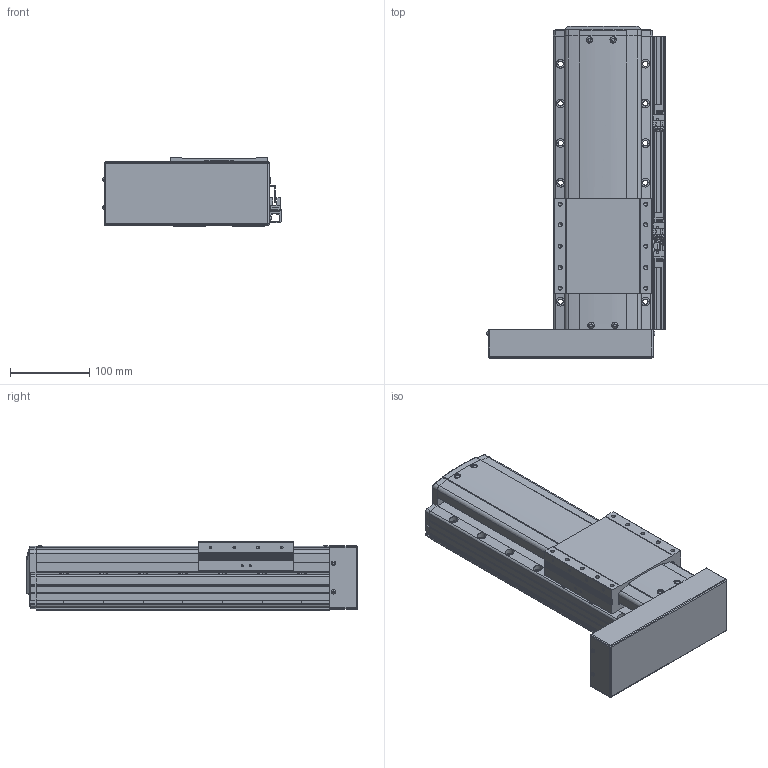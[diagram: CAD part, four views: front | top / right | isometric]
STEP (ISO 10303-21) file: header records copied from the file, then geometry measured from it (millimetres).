
FILE_DESCRIPTION(('STEP AP214'),'1');
FILE_NAME('Z:/Web/3D/PSA125/STP/PSA125-150 (3D)/PSA125ㅁㅁ-150PL+3SR.stp','2014-06-20T08:54:48',(' '),(' '),'Spatial InterOp 3D',' ',' ');
FILE_SCHEMA(('automotive_design'));
Length unit declared in the file: millimetre
Products named in the file (41): 스크루 : Round - M4.0 x 10.0; RRCV-PA120; SLIDE; BASE; FRCV-PA120-1(기준 뿔 제거); RR1500; 스크루 : Round - M4.0 x 6.0; 너트 : Square - M10.0 x 220.7419; BTCV - 60A; 스크루 : Round - M3.0 x 6.0; EE-SX674; SBK-SX674-352; M3.0 x 6.0; SRL-16x17-380L; SGD-PA95; 스크루 : Round - M3.0 x 8.0
Bounding box: 225.06 x 418.6 x 86 mm (x, y, z)
Volume: 3956119.7 mm3; surface area: 436465.9 mm2
Topology: 41 solids, 41 shells, 2395 faces, 6373 edges, 4096 vertices
Faces by surface type: plane 1403, cylinder 652, cone 220, sphere 64, bspline 31, torus 25
Entity records: 95724 total; most frequent: CARTESIAN_POINT 15561, DIRECTION 12729, ORIENTED_EDGE 12510, EDGE_CURVE 6255, LINE 4271, VECTOR 4271, AXIS2_PLACEMENT_3D 4229, VERTEX_POINT 4096
